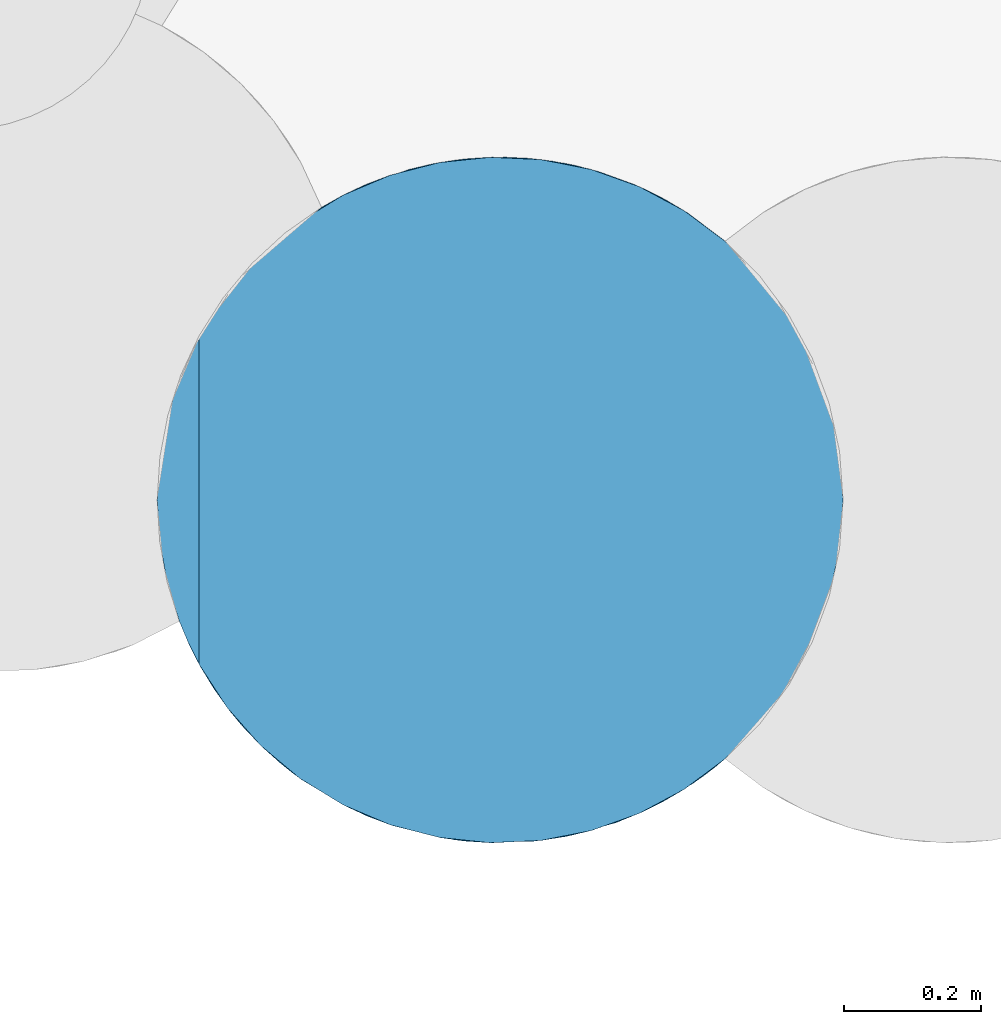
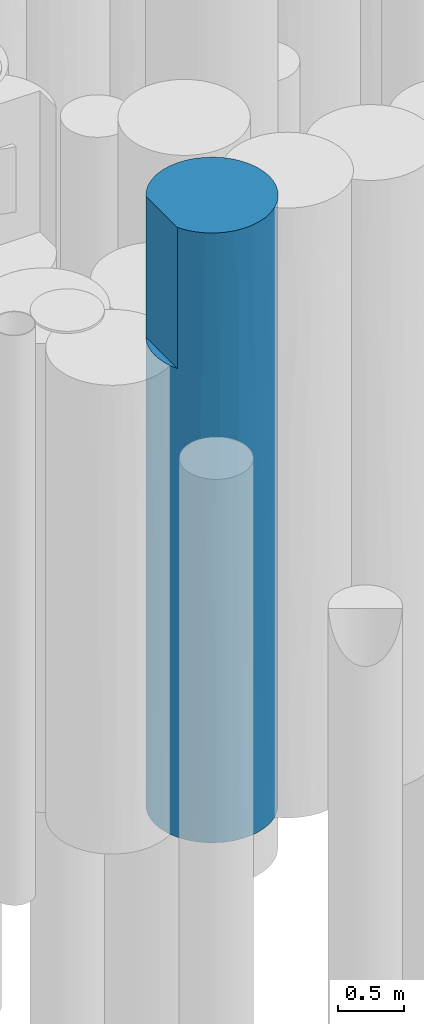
# One storey, part 36 of 104: 1 pile.
"""IFC2X3 building model written with IfcOpenShell, lengths in millimetres."""

from ifc_helpers import new_model, entity, si_unit, converted_unit, derived_unit, direction, frame, origin, place, context, subcontext, project, spatial, faceted_brep, source, transform, mapped, material, element, save


model = new_model("IFC2X3")

# Units and contexts
model_context = context("Model", 3, precision=0.01, world=origin(), true_north=direction((6.12303176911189e-17, 1.0)))
body_context = subcontext(model_context, "Body", "Model", "MODEL_VIEW")
ifc_project = project(units=[si_unit("LENGTHUNIT", "METRE", prefix="MILLI"), si_unit("AREAUNIT", "SQUARE_METRE", prefix="MILLI"), si_unit("VOLUMEUNIT", "CUBIC_METRE"), converted_unit("PLANEANGLEUNIT", "DEGREE", entity("IfcRatioMeasure", 0.0174532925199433), si_unit("PLANEANGLEUNIT", "RADIAN"), dimensions=[0, 0, 0, 0, 0, 0, 0]), si_unit("MASSUNIT", "GRAM", prefix="KILO"), derived_unit("MASSDENSITYUNIT", [(si_unit("MASSUNIT", "GRAM", prefix="KILO"), 1), (si_unit("LENGTHUNIT", "METRE"), -3)]), derived_unit("MOMENTOFINERTIAUNIT", [(si_unit("LENGTHUNIT", "METRE"), 4)]), si_unit("TIMEUNIT", "SECOND"), si_unit("FREQUENCYUNIT", "HERTZ"), si_unit("THERMODYNAMICTEMPERATUREUNIT", "DEGREE_CELSIUS"), derived_unit("THERMALTRANSMITTANCEUNIT", [(si_unit("MASSUNIT", "GRAM", prefix="KILO"), 1), (si_unit("THERMODYNAMICTEMPERATUREUNIT", "KELVIN"), -1), (si_unit("TIMEUNIT", "SECOND"), -3)]), derived_unit("VOLUMETRICFLOWRATEUNIT", [(si_unit("LENGTHUNIT", "METRE"), 3), (si_unit("TIMEUNIT", "SECOND"), -1)]), si_unit("ELECTRICCURRENTUNIT", "AMPERE"), si_unit("ELECTRICVOLTAGEUNIT", "VOLT"), si_unit("POWERUNIT", "WATT"), si_unit("FORCEUNIT", "NEWTON", prefix="KILO"), si_unit("ILLUMINANCEUNIT", "LUX"), si_unit("LUMINOUSFLUXUNIT", "LUMEN"), si_unit("LUMINOUSINTENSITYUNIT", "CANDELA"), derived_unit("USERDEFINED", [(si_unit("MASSUNIT", "GRAM", prefix="KILO"), -1), (si_unit("LENGTHUNIT", "METRE"), -2), (si_unit("TIMEUNIT", "SECOND"), 3), (si_unit("LUMINOUSFLUXUNIT", "LUMEN"), 1)]), derived_unit("LINEARVELOCITYUNIT", [(si_unit("LENGTHUNIT", "METRE"), 1), (si_unit("TIMEUNIT", "SECOND"), -1)]), si_unit("PRESSUREUNIT", "PASCAL"), derived_unit("USERDEFINED", [(si_unit("LENGTHUNIT", "METRE"), -2), (si_unit("MASSUNIT", "GRAM", prefix="KILO"), 1), (si_unit("TIMEUNIT", "SECOND"), -2)]), derived_unit("LINEARFORCEUNIT", [(si_unit("MASSUNIT", "GRAM", prefix="KILO"), 1), (si_unit("LENGTHUNIT", "METRE"), 1), (si_unit("TIMEUNIT", "SECOND"), -2), (si_unit("LENGTHUNIT", "METRE"), -1)]), derived_unit("PLANARFORCEUNIT", [(si_unit("MASSUNIT", "GRAM", prefix="KILO"), 1), (si_unit("LENGTHUNIT", "METRE"), 1), (si_unit("TIMEUNIT", "SECOND"), -2), (si_unit("LENGTHUNIT", "METRE"), -2)])], contexts=[model_context])

# Site, building, storey
site_placement = place(None, origin())
site = spatial("IfcSite", under=ifc_project, at=site_placement, Name="Theater aan de Parade", CompositionType="ELEMENT")
building_placement = place(site_placement, origin())
building = spatial("IfcBuilding", under=site, at=building_placement, Name="Theater aan de Parade", CompositionType="ELEMENT")
storey_placement = place(building_placement, frame((0.0, 0.0, -5520.0)))
storey = spatial("IfcBuildingStorey", under=building, at=storey_placement, Name="-2 kelder", CompositionType="ELEMENT", Elevation=-5520.0)

# Pile
ifc_material = material(Name="00_PBT_MAT_grout")
shared_shape = source(origin(), body_context, "Body", "Brep", [
    faceted_brep([(950.991728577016, 720.628566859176, 0.0), (972.918777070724, 668.337468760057, 0.0), (988.77897604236, 613.923113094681, 0.0), (998.377233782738, 558.078239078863, 0.0), (1001.59527223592, 501.441831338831, 0.0), (996.521841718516, 430.394728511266, 0.0), (981.407350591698, 360.799129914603, 0.0), (956.55901824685, 294.058153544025, 0.0), (922.482442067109, 231.527047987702, 0.0), (879.869508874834, 174.473022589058, 0.0), (829.578224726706, 124.055286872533, 0.0), (770.327681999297, 79.7987453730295, 0.0), (705.191192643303, 44.770504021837, 0.0), (635.600279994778, 19.7337684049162, 0.0), (563.07738772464, 5.23627970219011, 0.0), (489.20909635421, 1.5952722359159, 0.0), (415.611437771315, 8.89053430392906, 0.0), (343.894565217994, 26.9626568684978, 0.0), (275.627550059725, 55.416508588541, 0.0), (212.304073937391, 93.6298616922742, 0.0), (155.309765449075, 140.76698083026, 0.0), (105.891892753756, 195.7968813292, 0.0), (65.1324592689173, 257.515176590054, 0.0), (33.9226121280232, 324.588152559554, 0.0), (16.0531730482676, 382.073200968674, 0.0), (5.22700720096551, 441.28748431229, 0.0), (1.5952722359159, 501.441831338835, 0.0), (7.30475431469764, 576.786930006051, 0.0), (24.3020617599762, 650.408912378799, 0.0), (52.1988158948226, 720.62856685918, 0.0), (970.174217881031, 675.894609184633, 3757.00106435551), (992.264740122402, 597.584814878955, 4237.14028116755), (993.798223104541, 589.397815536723, 3294.37892201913), (854.081257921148, 856.059413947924, 2134.54468352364), (829.584336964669, 878.831780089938, 1000.0), (773.560848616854, 921.00675511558, 1000.0), (950.991728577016, 720.628566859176, 1000.0), (612.794219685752, 988.919824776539, 3303.29676151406), (543.514981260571, 999.681470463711, 2219.32807310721), (489.845446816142, 1001.30375387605, 3077.97225064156), (935.323509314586, 750.198371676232, 2461.89799152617), (986.529325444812, 623.257117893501, 2185.76883374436), (646.898349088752, 979.863210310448, 2337.7078064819), (712.199102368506, 954.923944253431, 1000.0), (646.697610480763, 979.92413136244, 1000.0), (989.954497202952, 608.704440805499, 1098.45045640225), (1001.59527223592, 501.441831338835, 2810.0), (1001.59527223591, 501.441831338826, 2496.92458816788), (1001.59527223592, 501.441831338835, 1561.53772474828), (5.49209268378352, 563.744602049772, 4320.0), (1.5952722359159, 501.441831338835, 3539.23594555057), (1.59527223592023, 501.441831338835, 4320.0), (827.877818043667, 880.308167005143, 4265.96770058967), (879.875324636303, 828.403911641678, 5620.0), (902.197671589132, 800.636947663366, 4389.58026662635), (743.475204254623, 939.042218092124, 2484.17078220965), (776.380737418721, 919.165362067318, 3335.42135453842), (697.993747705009, 961.254444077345, 3176.24947937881), (156.730047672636, 863.474947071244, 2495.57755512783), (68.9279480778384, 752.039091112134, 1852.35530307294), (95.6669806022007, 793.370284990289, 2583.71597089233), (578.343570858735, 995.516419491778, 1000.0), (271.840664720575, 945.528332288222, 2126.76103631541), (183.346916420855, 887.081538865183, 1000.0), (923.958220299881, 769.041420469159, 3447.38071487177), (854.081257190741, 856.059414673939, 3309.99293185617), (877.000904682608, 831.700231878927, 1000.0), (1.5952722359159, 501.441831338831, 780.773986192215), (17.1218131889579, 625.076241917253, 4320.0), (25.7845061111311, 655.078138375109, 3420.82448451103), (438.479899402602, 997.442284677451, 1000.0), (403.858704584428, 991.79635955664, 2488.52543206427), (1001.59527223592, 501.441831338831, 4215.0), (996.521935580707, 572.488280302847, 5620.0), (970.174218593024, 675.894607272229, 4717.27947124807), (131.391458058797, 837.520893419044, 3455.79937088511), (737.872385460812, 942.092629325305, 4159.90213955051), (1001.59527223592, 501.441831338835, 5620.0), (956.56092572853, 708.821324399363, 5620.0), (981.408086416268, 642.082022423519, 5620.0), (917.712421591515, 778.653876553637, 1000.0), (769.988913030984, 923.300638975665, 5620.0), (829.593062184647, 878.824196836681, 5620.0), (922.486095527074, 771.350917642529, 5620.0), (195.294400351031, 896.637701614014, 3195.88008080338), (508.480084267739, 1001.39442845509, 1000.0), (241.263108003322, 928.322569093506, 1000.0), (598.201067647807, 992.020388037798, 4482.8350719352), (704.447252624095, 958.444100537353, 5620.0), (561.449378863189, 997.846390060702, 5620.0), (634.417704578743, 983.477308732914, 5620.0), (450.026541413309, 998.775387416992, 4845.05309680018), (450.026541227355, 998.775387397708, 3997.99571642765), (303.549556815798, 960.547368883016, 1000.0), (306.387848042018, 961.761352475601, 4458.06164243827), (272.693418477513, 945.968479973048, 5620.0), (341.163515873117, 975.00455321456, 5620.0), (131.859202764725, 838.035412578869, 1000.0), (369.718571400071, 983.736902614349, 1000.0), (271.840664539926, 945.528332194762, 3298.75518439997), (179.926131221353, 884.232849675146, 4261.68948792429), (14.4107236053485, 613.919453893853, 881.485738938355), (48.6367395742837, 713.169410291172, 2671.53485608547), (20.6564052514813, 638.181753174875, 1800.58752814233), (1.59527223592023, 501.441831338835, 2160.00496587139), (52.1988158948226, 720.62856685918, 1000.0), (87.8489469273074, 782.180104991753, 1000.0), (62.7371421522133, 741.032193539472, 4320.0), (61.904086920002, 739.499936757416, 3473.5763990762), (36.3031580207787, 684.480757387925, 4320.0), (369.108499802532, 983.569672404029, 3397.59823884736), (487.156413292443, 1001.23330720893, 5620.0), (413.182292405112, 993.562898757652, 5620.0), (209.286940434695, 907.096658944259, 5620.0), (17.9021669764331, 628.094821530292, 2628.45231870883), (1.59527223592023, 501.441831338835, 1561.53893030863), (103.13456601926, 803.483327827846, 5620.0), (62.7371421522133, 741.032193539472, 5620.0), (114.619877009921, 818.06470399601, 4278.24400128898), (152.347126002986, 859.248667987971, 5620.0), (1001.59527223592, 501.441831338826, 4058.46229408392), (1.59527223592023, 501.441831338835, 2758.46106969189), (24.1235918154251, 353.047780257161, 1192.54647890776), (84.3693982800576, 225.901325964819, 1120.91401505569), (960.67916129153, 303.345938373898, 887.638925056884), (990.205285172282, 395.327481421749, 966.437143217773), (970.172960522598, 326.985676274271, 1748.92545523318), (957.992493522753, 297.232192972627, 3040.83404777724), (902.197672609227, 202.246716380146, 4316.47569542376), (902.197672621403, 202.246716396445, 2953.30359257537), (122.873116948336, 174.991943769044, 2701.48095591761), (182.934145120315, 116.143134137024, 1713.1368050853), (16.8253185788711, 378.975133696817, 2701.48095530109), (182.934145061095, 116.143134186, 822.806781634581), (196.244318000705, 105.511541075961, 4750.83514041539), (272.693418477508, 56.9151827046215, 5620.0), (209.286940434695, 95.7870037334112, 5620.0), (544.197784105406, 3.26011149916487, 2181.61048551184), (670.859285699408, 30.9636769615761, 2809.55222401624), (549.449107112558, 3.73708905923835, 3147.32619730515), (452.275195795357, 3.88024715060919, 822.80359190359), (309.234228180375, 39.925603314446, 1362.95809002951), (737.872386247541, 60.7910337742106, 4692.92150394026), (709.913078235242, 46.9050432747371, 3733.18110470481), (800.619055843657, 100.711526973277, 3979.7613970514), (598.201068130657, 10.8632747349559, 4253.17870654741), (450.026541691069, 4.10827523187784, 3915.87583971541), (33.9274364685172, 324.561093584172, 4320.0), (16.0535980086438, 382.071472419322, 4320.0), (9.74539453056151, 411.532444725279, 3505.45874678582), (309.234228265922, 39.9256032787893, 2808.46045918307), (306.387848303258, 41.122310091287, 4253.16126652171), (179.926131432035, 118.650812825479, 3890.17714684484), (879.875324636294, 174.479751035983, 5620.0), (829.593062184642, 124.059465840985, 5620.0), (813.253096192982, 110.456664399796, 4804.96361750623), (54.7201836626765, 277.159296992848, 3244.87488308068), (54.7201836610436, 277.15929699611, 2158.08702813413), (5.22308284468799, 441.319875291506, 4320.0), (62.7371421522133, 261.851469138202, 5620.0), (62.7371421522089, 261.851469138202, 4320.0), (103.13456601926, 199.400334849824, 5620.0), (47.2369749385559, 292.735009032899, 4320.0), (450.026541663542, 4.10827523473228, 4802.25569569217), (126.702520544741, 170.601349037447, 4653.65386219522), (152.34712600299, 143.634994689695, 5620.0), (956.56092572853, 294.062338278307, 5620.0), (963.907408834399, 311.001582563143, 4818.74032948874), (981.408086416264, 360.801640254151, 5620.0), (341.163515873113, 27.8791094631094, 5620.0), (816.914058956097, 113.403092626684, 860.333189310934), (738.407977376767, 61.0786372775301, 958.029761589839), (930.334296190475, 244.181555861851, 2143.77776160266), (902.19298675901, 202.240442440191, 1334.29319626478), (452.275195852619, 3.88024714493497, 1713.12563483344), (599.607251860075, 11.1422781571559, 1362.94683629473), (208.241152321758, 96.5426336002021, 2740.27522098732), (800.776708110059, 100.829214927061, 1713.54622971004), (869.279202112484, 162.607760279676, 2143.81944354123), (769.988913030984, 79.5830237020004, 5620.0), (704.44725262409, 44.4395621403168, 5620.0), (782.254317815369, 87.6417586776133, 2846.48786251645), (994.481302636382, 417.398027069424, 2029.23114692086), (970.174219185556, 326.989056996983, 4015.05829402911), (991.596161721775, 401.947468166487, 3146.35706840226), (922.486095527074, 231.532745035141, 5620.0), (710.227815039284, 47.0494215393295, 1902.45221826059), (990.205632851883, 395.32908234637, 4717.30900356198), (413.182292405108, 9.32076392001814, 5620.0), (487.156413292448, 1.65035546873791, 5620.0), (561.449378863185, 5.03727261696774, 5620.0), (996.521935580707, 430.395382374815, 5620.0), (634.417704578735, 19.4063539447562, 5620.0), (108.185449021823, 192.850335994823, 3727.14772610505), (434.25376081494, 5.99746429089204, 2813.0265661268)], [[[0, 1, 2, 3, 4, 5, 6, 7, 8, 9, 10, 11, 12, 13, 14, 15, 16, 17, 18, 19, 20, 21, 22, 23, 24, 25, 26, 27, 28, 29]], [[30, 31, 32]], [[33, 34, 35]], [[36, 1, 0]], [[37, 38, 39]], [[36, 40, 41]], [[42, 43, 44]], [[36, 45, 1]], [[41, 46, 47, 48]], [[49, 50, 51]], [[52, 53, 54]], [[33, 55, 56]], [[42, 37, 57]], [[58, 59, 60]], [[61, 38, 42]], [[55, 35, 43]], [[58, 62, 63]], [[64, 65, 54]], [[37, 42, 38]], [[33, 66, 34]], [[27, 26, 67]], [[49, 68, 69]], [[70, 71, 38]], [[72, 31, 73]], [[3, 2, 45]], [[30, 74, 31]], [[75, 58, 60]], [[57, 76, 56]], [[72, 73, 77]], [[74, 78, 79]], [[4, 3, 45]], [[80, 66, 33]], [[52, 81, 82]], [[33, 40, 80]], [[54, 53, 83]], [[75, 84, 58]], [[74, 54, 83]], [[70, 38, 85]], [[82, 53, 52]], [[62, 86, 63]], [[87, 76, 37]], [[88, 81, 76]], [[39, 38, 71]], [[89, 90, 87]], [[64, 54, 30]], [[36, 80, 40]], [[74, 83, 78]], [[91, 87, 92]], [[40, 33, 65]], [[86, 62, 93]], [[94, 95, 96]], [[88, 76, 87]], [[63, 97, 58]], [[98, 71, 70]], [[99, 100, 94]], [[36, 41, 45]], [[62, 71, 98]], [[58, 84, 62]], [[52, 54, 65]], [[27, 101, 28]], [[97, 59, 58]], [[60, 59, 102]], [[61, 85, 38]], [[33, 35, 55]], [[103, 101, 104]], [[105, 29, 28]], [[105, 59, 106]], [[107, 108, 109]], [[28, 101, 105]], [[99, 110, 71]], [[103, 59, 105]], [[111, 91, 112]], [[91, 94, 96]], [[110, 94, 92]], [[91, 96, 112]], [[100, 113, 94]], [[113, 95, 94]], [[102, 103, 114]], [[92, 87, 37]], [[87, 91, 89]], [[87, 90, 88]], [[108, 69, 109]], [[74, 79, 73]], [[59, 97, 106]], [[30, 32, 41]], [[101, 67, 115, 104]], [[116, 107, 117]], [[118, 116, 119]], [[68, 109, 69]], [[56, 65, 33]], [[102, 59, 103]], [[50, 69, 114]], [[119, 100, 118]], [[113, 100, 119]], [[49, 69, 50]], [[54, 74, 30]], [[98, 93, 62]], [[102, 114, 69]], [[71, 62, 99]], [[67, 101, 27]], [[105, 101, 103]], [[91, 111, 89]], [[94, 91, 92]], [[41, 48, 45]], [[30, 41, 40]], [[108, 102, 69]], [[100, 99, 84]], [[108, 60, 102]], [[118, 100, 75]], [[73, 31, 74]], [[32, 72, 120, 46]], [[72, 32, 31]], [[41, 32, 46]], [[118, 108, 107]], [[60, 108, 75]], [[103, 104, 114]], [[114, 104, 121, 50]], [[45, 48, 4]], [[1, 45, 2]], [[108, 118, 75]], [[116, 118, 107]], [[100, 84, 75]], [[62, 84, 99]], [[94, 110, 99]], [[39, 110, 92]], [[57, 56, 55]], [[52, 56, 76]], [[57, 55, 42]], [[76, 57, 37]], [[43, 42, 55]], [[61, 42, 44]], [[56, 52, 65]], [[52, 76, 81]], [[30, 40, 64]], [[65, 64, 40]], [[110, 39, 71]], [[37, 39, 92]], [[122, 22, 123]], [[124, 125, 126]], [[127, 128, 129]], [[123, 22, 21]], [[22, 122, 23]], [[4, 125, 5]], [[130, 123, 131]], [[115, 122, 132]], [[21, 133, 123]], [[4, 48, 125]], [[20, 19, 133]], [[134, 135, 136]], [[137, 138, 139]], [[140, 17, 16]], [[17, 141, 18]], [[142, 143, 144]], [[139, 145, 146]], [[147, 148, 149]], [[141, 133, 18]], [[150, 151, 152]], [[153, 154, 155]], [[140, 16, 15]], [[25, 115, 67, 26]], [[156, 149, 132]], [[122, 24, 23]], [[141, 17, 140]], [[132, 157, 156]], [[149, 148, 158]], [[159, 160, 161]], [[149, 51, 50, 121]], [[162, 156, 160]], [[146, 163, 151]], [[152, 134, 164]], [[161, 164, 165]], [[166, 167, 168]], [[133, 21, 20]], [[130, 157, 123]], [[164, 134, 165]], [[130, 156, 157]], [[147, 156, 162]], [[134, 136, 165]], [[124, 7, 6]], [[169, 135, 151]], [[144, 155, 142]], [[163, 169, 151]], [[170, 11, 10]], [[12, 11, 171]], [[172, 173, 126]], [[25, 122, 115]], [[11, 170, 171]], [[174, 140, 175]], [[141, 131, 133]], [[150, 141, 140, 174]], [[141, 150, 176]], [[8, 7, 124]], [[170, 177, 171]], [[173, 172, 178]], [[142, 179, 180]], [[181, 129, 144]], [[47, 182, 48]], [[8, 173, 9]], [[183, 127, 184]], [[167, 185, 128]], [[125, 124, 6]], [[171, 186, 175]], [[181, 138, 186]], [[122, 157, 132]], [[187, 167, 183]], [[188, 163, 189]], [[163, 145, 190]], [[127, 182, 184]], [[187, 191, 168]], [[163, 190, 189]], [[142, 192, 145]], [[146, 151, 150]], [[193, 156, 130]], [[144, 129, 128]], [[120, 187, 184]], [[183, 167, 128]], [[179, 142, 155]], [[194, 174, 137]], [[139, 138, 145]], [[153, 155, 128]], [[187, 77, 191]], [[157, 122, 123]], [[176, 152, 130]], [[6, 5, 125]], [[145, 192, 190]], [[185, 153, 128]], [[140, 14, 175]], [[170, 9, 173]], [[14, 13, 175]], [[13, 12, 171]], [[25, 24, 122]], [[182, 125, 48]], [[161, 160, 164]], [[193, 164, 160]], [[186, 171, 177]], [[13, 171, 175]], [[184, 187, 183]], [[187, 120, 72, 77]], [[192, 142, 180]], [[143, 145, 138]], [[140, 15, 14]], [[163, 188, 169]], [[145, 163, 146]], [[133, 19, 18]], [[123, 133, 131]], [[176, 130, 131]], [[193, 152, 164]], [[156, 147, 149]], [[132, 121, 104, 115]], [[51, 149, 158]], [[121, 132, 149]], [[145, 143, 142]], [[181, 143, 138]], [[184, 182, 47]], [[125, 182, 126]], [[184, 47, 46, 120]], [[128, 127, 183]], [[181, 186, 177]], [[175, 186, 138]], [[156, 193, 160]], [[130, 152, 193]], [[172, 127, 129]], [[182, 127, 126]], [[126, 173, 124]], [[8, 124, 173]], [[152, 151, 134]], [[135, 134, 151]], [[9, 170, 10]], [[173, 177, 170]], [[168, 167, 187]], [[167, 166, 185]], [[194, 139, 146]], [[175, 137, 174]], [[146, 150, 194]], [[150, 174, 194]], [[128, 155, 144]], [[179, 155, 154]], [[141, 176, 131]], [[152, 176, 150]], [[181, 177, 178]], [[143, 181, 144]], [[127, 172, 126]], [[178, 172, 129]], [[181, 178, 129]], [[177, 173, 178]], [[138, 137, 175]], [[194, 137, 139]], [[88, 90, 89, 111, 112, 96, 95, 113, 119, 116, 117, 159, 161, 165, 136, 135, 169, 188, 189, 190, 192, 180, 179, 154, 153, 185, 166, 168, 191, 77, 73, 79, 78, 83, 53, 82, 81]], [[147, 162, 160, 107, 109, 68, 49, 51, 158, 148]], [[159, 117, 107, 160]], [[86, 93, 98, 70, 85, 61, 44, 43, 35, 34, 66, 80, 36, 105, 106, 97, 63]], [[105, 36, 0, 29]]]),
])
pile_placement = place(storey_placement, frame((35152.2628578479, 37979.3714331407, -3840.0)))
element("IfcPile", 1, at=pile_placement, inside=storey, material=ifc_material, Name="17_PBT_SFO_grondkering_rond:Ø1000 (grondkering)", ObjectType="17_PBT_SFO_grondkering_rond:Ø1000 (grondkering)", PredefinedType="NOTDEFINED", context=body_context, shape_type="MappedRepresentation", body=[
    mapped(shared_shape, transform((0.0, 0.0, 0.0), scale=1.0)),
])

save(model, "model.ifc")
